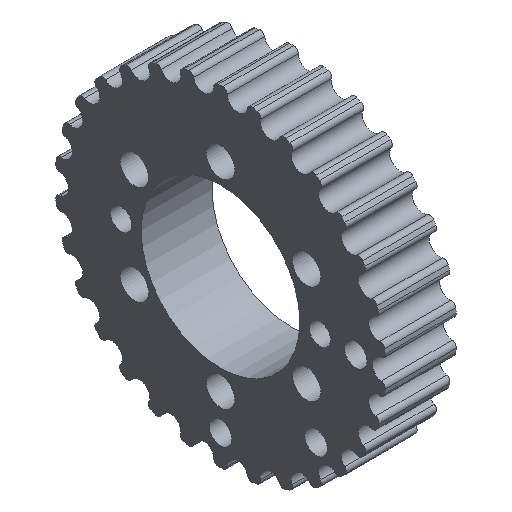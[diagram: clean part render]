
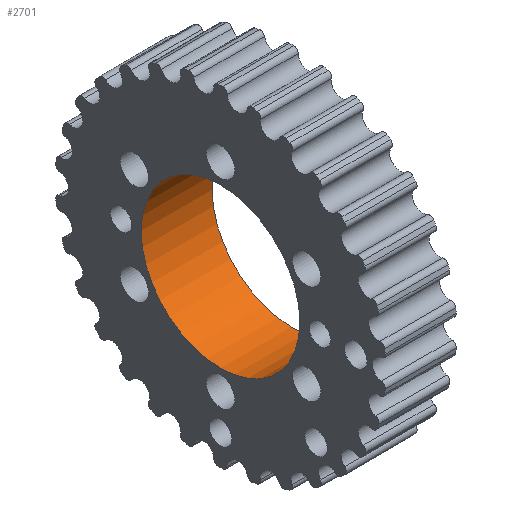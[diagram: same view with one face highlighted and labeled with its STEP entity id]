
A CAD part, isometric view. The second image highlights one B-rep face of the part: STEP entity #2701.
In plain terms, the highlighted cylindrical face has radius 11.176 mm (diameter 22.352 mm), a full revolution.
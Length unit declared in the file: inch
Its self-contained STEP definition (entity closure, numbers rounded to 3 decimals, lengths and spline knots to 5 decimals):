
#170=FACE_OUTER_BOUND('',#328,.T.);
#328=EDGE_LOOP('',(#2296,#2297,#2298,#2299));
#591=CIRCLE('',#3107,0.44);
#595=CIRCLE('',#3112,0.44);
#724=LINE('',#4835,#856);
#856=VECTOR('',#4037,0.44);
#1119=VERTEX_POINT('',#4823);
#1123=VERTEX_POINT('',#4832);
#1511=EDGE_CURVE('',#1119,#1119,#591,.T.);
#1515=EDGE_CURVE('',#1123,#1123,#595,.T.);
#1516=EDGE_CURVE('',#1123,#1119,#724,.T.);
#2296=ORIENTED_EDGE('',*,*,#1515,.F.);
#2297=ORIENTED_EDGE('',*,*,#1516,.T.);
#2298=ORIENTED_EDGE('',*,*,#1511,.T.);
#2299=ORIENTED_EDGE('',*,*,#1516,.F.);
#2440=CYLINDRICAL_SURFACE('',#3113,0.44);
#2701=ADVANCED_FACE('',(#170),#2440,.F.);
#3107=AXIS2_PLACEMENT_3D('',#4824,#4023,#4024);
#3112=AXIS2_PLACEMENT_3D('',#4833,#4033,#4034);
#3113=AXIS2_PLACEMENT_3D('',#4834,#4035,#4036);
#4023=DIRECTION('center_axis',(1.,0.,0.));
#4024=DIRECTION('ref_axis',(0.,0.,-1.));
#4033=DIRECTION('center_axis',(1.,0.,0.));
#4034=DIRECTION('ref_axis',(0.,0.,-1.));
#4035=DIRECTION('center_axis',(1.,0.,0.));
#4036=DIRECTION('ref_axis',(0.,0.,-1.));
#4037=DIRECTION('',(1.,0.,0.));
#4823=CARTESIAN_POINT('',(0.64961,0.,0.44));
#4824=CARTESIAN_POINT('Origin',(0.64961,0.,0.));
#4832=CARTESIAN_POINT('',(0.25591,0.,0.44));
#4833=CARTESIAN_POINT('Origin',(0.25591,0.,0.));
#4834=CARTESIAN_POINT('Origin',(0.64961,0.,0.));
#4835=CARTESIAN_POINT('',(0.64961,0.,0.44));
